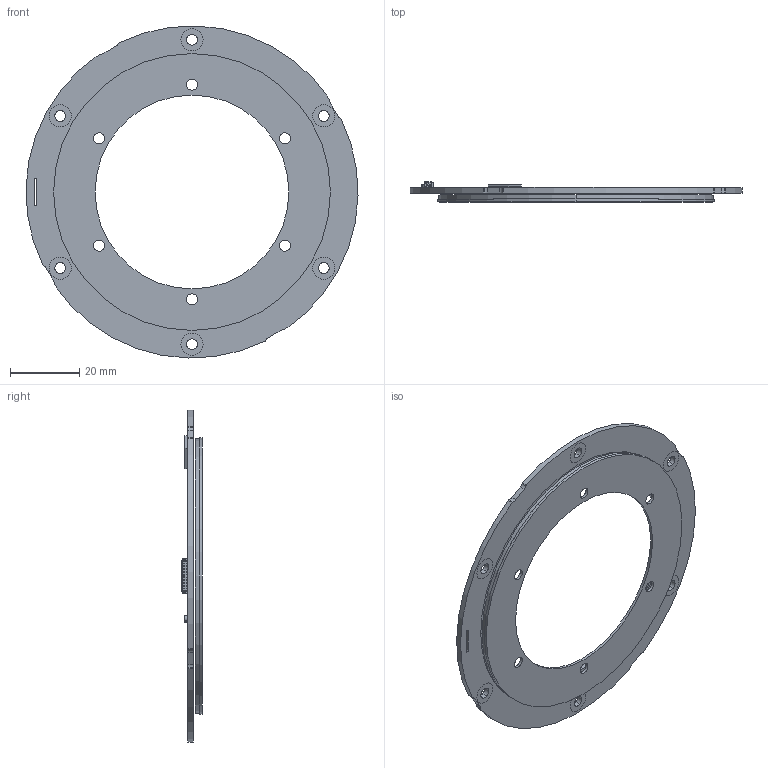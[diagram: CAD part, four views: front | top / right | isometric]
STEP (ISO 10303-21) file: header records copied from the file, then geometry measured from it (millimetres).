
FILE_DESCRIPTION (( 'STEP AP214' ), '1' );
FILE_NAME ('IND-ROT-096-A21_rev01.STEP', '2023-11-07T18:15:47', ( '' ), ( '' ), 'SwSTEP 2.0', 'SolidWorks 2021', '' );
FILE_SCHEMA (( 'AUTOMOTIVE_DESIGN' ));
Length unit declared in the file: millimetre
Products named in the file (1): IND-ROT-096-A21_rev01
Bounding box: 95.97 x 5.82 x 95.97 mm (x, y, z)
Volume: 9453.8 mm3; surface area: 17075.1 mm2
Topology: 17 solids, 17 shells, 1829 faces, 4778 edges, 2877 vertices
Faces by surface type: plane 817, cylinder 713, bspline 299
Entity records: 78166 total; most frequent: CARTESIAN_POINT 14895, ORIENTED_EDGE 9334, DIRECTION 8538, EDGE_CURVE 4667, VECTOR 2986, LINE 2986, VERTEX_POINT 2877, AXIS2_PLACEMENT_3D 2776
